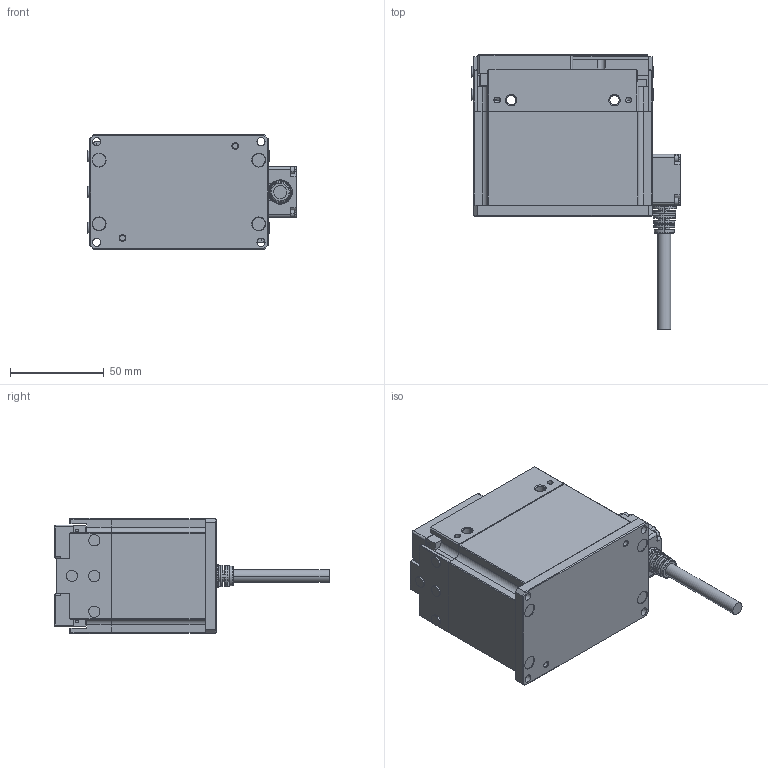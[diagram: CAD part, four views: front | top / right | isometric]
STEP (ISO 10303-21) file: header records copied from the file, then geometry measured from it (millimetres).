
FILE_DESCRIPTION (( 'STEP AP203' ), '1' );
FILE_NAME ('PGIA-140-80_3D潠眢耀倰_20250714.STEP', '2025-07-15T02:12:57', ( '' ), ( '' ), 'SwSTEP 2.0', 'SolidWorks 2020', '' );
FILE_SCHEMA (( 'CONFIG_CONTROL_DESIGN' ));
Length unit declared in the file: millimetre
Products named in the file (4): 复件 基体0714^PGIA-140-80_3D简易模型_20250714; 复件 网尾^PGIA-140-80_3D简易模型_20250714; PGIA-140-80_3D潠眢耀倰_20250714; 复件 基座^PGIA-140-80_3D简易模型_20250714
Assembly tree (4 placements, depth 2):
  PGIA-140-80_3D潠眢耀倰_20250714
    复件 基体0714^PGIA-140-80_3D简易模型_20250714
    复件 基座^PGIA-140-80_3D简易模型_20250714  x2
    复件 网尾^PGIA-140-80_3D简易模型_20250714
Bounding box: 111 x 146 x 61.7 mm (x, y, z)
Volume: 450749.1 mm3; surface area: 107020.4 mm2
Topology: 56 solids, 56 shells, 1451 faces, 3301 edges, 2079 vertices
Faces by surface type: cylinder 644, plane 529, cone 220, bspline 29, torus 27, sphere 2
Entity records: 36639 total; most frequent: CARTESIAN_POINT 7260, DIRECTION 6427, ORIENTED_EDGE 5626, EDGE_CURVE 2813, AXIS2_PLACEMENT_3D 2520, VERTEX_POINT 1799, EDGE_LOOP 1498, LINE 1387
